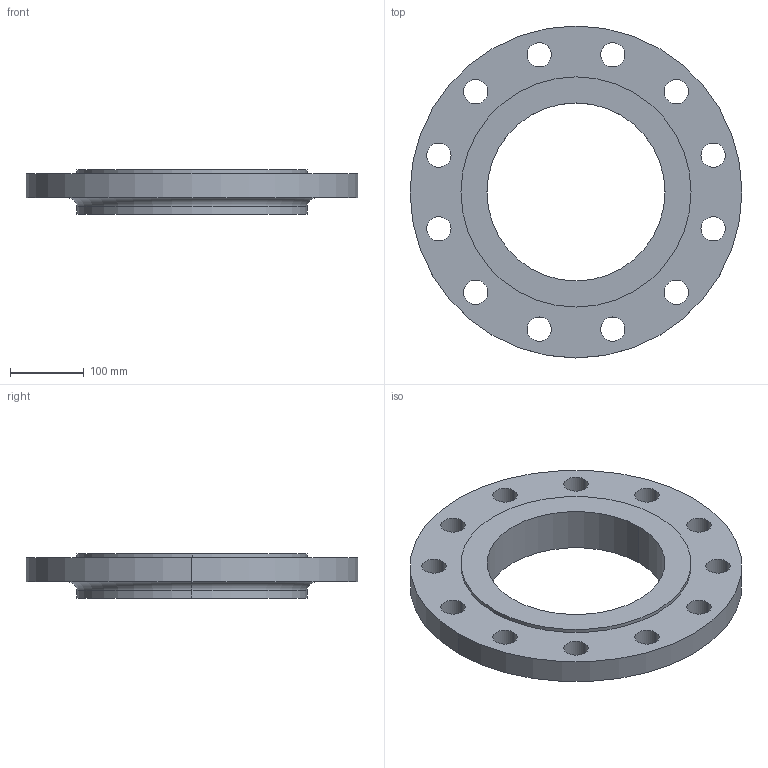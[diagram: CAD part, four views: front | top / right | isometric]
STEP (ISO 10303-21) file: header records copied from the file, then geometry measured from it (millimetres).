
FILE_DESCRIPTION (( 'STEP AP214' ), '1' );
FILE_NAME ('PN40 DN250 Type 13 - Type E Face.STEP', '2019-01-05T15:59:35', ( '' ), ( '' ), 'SwSTEP 2.0', 'SolidWorks 2019', '' );
FILE_SCHEMA (( 'AUTOMOTIVE_DESIGN' ));
Length unit declared in the file: millimetre
Products named in the file (1): PN40 DN250 Type 13 - Type E Face
Bounding box: 450 x 450 x 60 mm (x, y, z)
Volume: 4260057.3 mm3; surface area: 360747.1 mm2
Topology: 1 solids, 1 shells, 38 faces, 100 edges, 66 vertices
Faces by surface type: cylinder 32, plane 4, torus 2
Entity records: 1302 total; most frequent: DIRECTION 246, CARTESIAN_POINT 205, ORIENTED_EDGE 200, AXIS2_PLACEMENT_3D 107, EDGE_CURVE 100, CIRCLE 68, VERTEX_POINT 66, EDGE_LOOP 66
